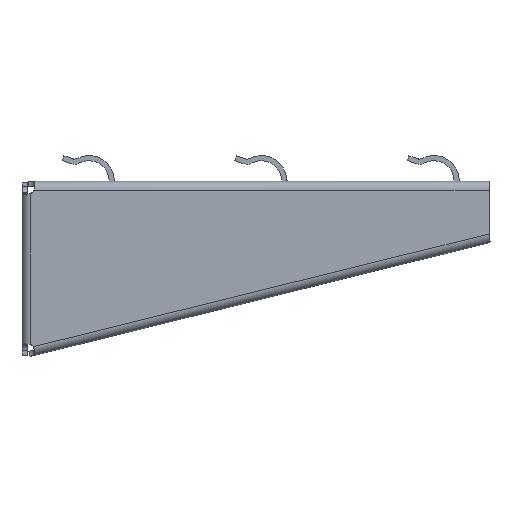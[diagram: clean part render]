
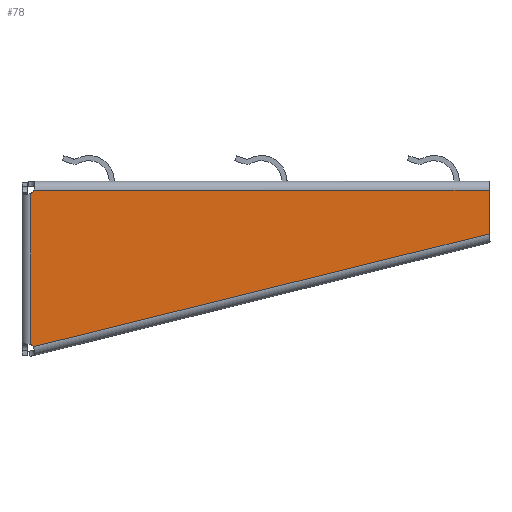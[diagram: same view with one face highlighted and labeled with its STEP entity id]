
A CAD part, left-side view. The second image highlights one B-rep face of the part: STEP entity #78.
In plain terms, the highlighted planar face has unit normal (-1, 0, 0).
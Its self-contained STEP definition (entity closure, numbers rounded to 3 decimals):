
#78=ADVANCED_FACE('',(#181),#1596,.T.);
#181=FACE_OUTER_BOUND('',#289,.T.);
#289=EDGE_LOOP('',(#597,#598,#599,#600,#601,#602,#603,#604,#605,#606));
#597=ORIENTED_EDGE('',*,*,#994,.T.);
#598=ORIENTED_EDGE('',*,*,#913,.F.);
#599=ORIENTED_EDGE('',*,*,#996,.T.);
#600=ORIENTED_EDGE('',*,*,#916,.F.);
#601=ORIENTED_EDGE('',*,*,#995,.F.);
#602=ORIENTED_EDGE('',*,*,#1001,.F.);
#603=ORIENTED_EDGE('',*,*,#1000,.F.);
#604=ORIENTED_EDGE('',*,*,#908,.F.);
#605=ORIENTED_EDGE('',*,*,#911,.F.);
#606=ORIENTED_EDGE('',*,*,#919,.F.);
#908=EDGE_CURVE('',#1421,#1419,#1153,.T.);
#911=EDGE_CURVE('',#1423,#1421,#1156,.T.);
#913=EDGE_CURVE('',#1425,#1413,#1158,.T.);
#916=EDGE_CURVE('',#1427,#1428,#1311,.T.);
#919=EDGE_CURVE('',#1411,#1423,#1161,.T.);
#994=EDGE_CURVE('',#1411,#1413,#1218,.T.);
#995=EDGE_CURVE('',#1415,#1427,#1331,.T.);
#996=EDGE_CURVE('',#1425,#1428,#1219,.T.);
#1000=EDGE_CURVE('',#1419,#1417,#1223,.T.);
#1001=EDGE_CURVE('',#1417,#1415,#1224,.T.);
#1153=(
BOUNDED_CURVE()
B_SPLINE_CURVE(2,(#2570,#2571,#2572),.UNSPECIFIED.,.F.,.F.)
B_SPLINE_CURVE_WITH_KNOTS((3,3),(562.4,563.029),
 .UNSPECIFIED.)
CURVE()
GEOMETRIC_REPRESENTATION_ITEM()
RATIONAL_B_SPLINE_CURVE((1.,0.988,1.))
REPRESENTATION_ITEM('')
);
#1156=(
BOUNDED_CURVE()
B_SPLINE_CURVE(2,(#2578,#2579,#2580),.UNSPECIFIED.,.F.,.F.)
B_SPLINE_CURVE_WITH_KNOTS((3,3),(562.397,562.4),
 .UNSPECIFIED.)
CURVE()
GEOMETRIC_REPRESENTATION_ITEM()
RATIONAL_B_SPLINE_CURVE((1.,1.,1.))
REPRESENTATION_ITEM('')
);
#1158=(
BOUNDED_CURVE()
B_SPLINE_CURVE(2,(#2584,#2585,#2586,#2587,#2588,#2589,#2590),
 .UNSPECIFIED.,.F.,.F.)
B_SPLINE_CURVE_WITH_KNOTS((3,2,2,3),(456.321,456.79,456.938,
457.396),.UNSPECIFIED.)
CURVE()
GEOMETRIC_REPRESENTATION_ITEM()
RATIONAL_B_SPLINE_CURVE((1.,0.994,1.,0.999,1.,0.994,
1.))
REPRESENTATION_ITEM('')
);
#1161=(
BOUNDED_CURVE()
B_SPLINE_CURVE(2,(#2606,#2607,#2608),.UNSPECIFIED.,.F.,.F.)
B_SPLINE_CURVE_WITH_KNOTS((3,3),(561.933,562.397),
 .UNSPECIFIED.)
CURVE()
GEOMETRIC_REPRESENTATION_ITEM()
RATIONAL_B_SPLINE_CURVE((1.,0.994,1.))
REPRESENTATION_ITEM('')
);
#1218=(
BOUNDED_CURVE()
B_SPLINE_CURVE(1,(#2877,#2878),.UNSPECIFIED.,.F.,.F.)
B_SPLINE_CURVE_WITH_KNOTS((2,2),(0.,43.718),.UNSPECIFIED.)
CURVE()
GEOMETRIC_REPRESENTATION_ITEM()
RATIONAL_B_SPLINE_CURVE((1.,1.))
REPRESENTATION_ITEM('')
);
#1219=(
BOUNDED_CURVE()
B_SPLINE_CURVE(1,(#2881,#2882),.UNSPECIFIED.,.F.,.F.)
B_SPLINE_CURVE_WITH_KNOTS((2,2),(0.,136.062),.UNSPECIFIED.)
CURVE()
GEOMETRIC_REPRESENTATION_ITEM()
RATIONAL_B_SPLINE_CURVE((1.,1.))
REPRESENTATION_ITEM('')
);
#1223=(
BOUNDED_CURVE()
B_SPLINE_CURVE(2,(#2896,#2897,#2898),.UNSPECIFIED.,.F.,.F.)
B_SPLINE_CURVE_WITH_KNOTS((3,3),(563.029,563.036),
 .UNSPECIFIED.)
CURVE()
GEOMETRIC_REPRESENTATION_ITEM()
RATIONAL_B_SPLINE_CURVE((1.,1.,1.))
REPRESENTATION_ITEM('')
);
#1224=(
BOUNDED_CURVE()
B_SPLINE_CURVE(2,(#2899,#2900,#2901),.UNSPECIFIED.,.F.,.F.)
B_SPLINE_CURVE_WITH_KNOTS((3,3),(563.036,563.493),
 .UNSPECIFIED.)
CURVE()
GEOMETRIC_REPRESENTATION_ITEM()
RATIONAL_B_SPLINE_CURVE((1.,0.994,1.))
REPRESENTATION_ITEM('')
);
#1311=B_SPLINE_CURVE_WITH_KNOTS('',1,(#2600,#2601),.UNSPECIFIED.,.F.,.F.,
(2,2),(747.6,760.32),.UNSPECIFIED.);
#1331=B_SPLINE_CURVE_WITH_KNOTS('',1,(#2879,#2880),.UNSPECIFIED.,.F.,.F.,
(2,2),(0.411,78.945),.UNSPECIFIED.);
#1411=VERTEX_POINT('',#2334);
#1413=VERTEX_POINT('',#2336);
#1415=VERTEX_POINT('',#2338);
#1417=VERTEX_POINT('',#2340);
#1419=VERTEX_POINT('',#2342);
#1421=VERTEX_POINT('',#2344);
#1423=VERTEX_POINT('',#2346);
#1425=VERTEX_POINT('',#2348);
#1427=VERTEX_POINT('',#2350);
#1428=VERTEX_POINT('',#2351);
#1596=PLANE('',#1761);
#1761=AXIS2_PLACEMENT_3D('',#2295,#1832,$);
#1832=DIRECTION('',(-1.,0.,0.));
#2295=CARTESIAN_POINT('',(-13.138,-136.581,25.226));
#2334=CARTESIAN_POINT('',(-13.138,-2.109,-2.055));
#2336=CARTESIAN_POINT('',(-13.138,-2.109,-45.772));
#2338=CARTESIAN_POINT('',(-13.138,-3.163,-1.));
#2340=CARTESIAN_POINT('',(-13.138,-2.943,-1.389));
#2342=CARTESIAN_POINT('',(-13.138,-2.939,-1.395));
#2344=CARTESIAN_POINT('',(-13.138,-2.498,-1.834));
#2346=CARTESIAN_POINT('',(-13.138,-2.496,-1.836));
#2348=CARTESIAN_POINT('',(-13.138,-2.921,-46.408));
#2350=CARTESIAN_POINT('',(-13.138,-134.998,-1.));
#2351=CARTESIAN_POINT('',(-13.138,-134.998,-13.72));
#2570=CARTESIAN_POINT('',(-13.138,-2.498,-1.834));
#2571=CARTESIAN_POINT('',(-13.138,-2.753,-1.649));
#2572=CARTESIAN_POINT('',(-13.138,-2.939,-1.395));
#2578=CARTESIAN_POINT('',(-13.138,-2.496,-1.836));
#2579=CARTESIAN_POINT('',(-13.138,-2.497,-1.835));
#2580=CARTESIAN_POINT('',(-13.138,-2.498,-1.834));
#2584=CARTESIAN_POINT('',(-13.138,-2.921,-46.408));
#2585=CARTESIAN_POINT('',(-13.138,-2.785,-46.228));
#2586=CARTESIAN_POINT('',(-13.138,-2.613,-46.083));
#2587=CARTESIAN_POINT('',(-13.138,-2.557,-46.036));
#2588=CARTESIAN_POINT('',(-13.138,-2.498,-45.993));
#2589=CARTESIAN_POINT('',(-13.138,-2.316,-45.861));
#2590=CARTESIAN_POINT('',(-13.138,-2.109,-45.772));
#2600=CARTESIAN_POINT('',(-13.138,-134.998,-1.));
#2601=CARTESIAN_POINT('',(-13.138,-134.998,-13.72));
#2606=CARTESIAN_POINT('',(-13.138,-2.109,-2.055));
#2607=CARTESIAN_POINT('',(-13.138,-2.314,-1.967));
#2608=CARTESIAN_POINT('',(-13.138,-2.496,-1.836));
#2877=CARTESIAN_POINT('',(-13.138,-2.109,-2.055));
#2878=CARTESIAN_POINT('',(-13.138,-2.109,-45.772));
#2879=CARTESIAN_POINT('',(-13.138,-3.163,-1.));
#2880=CARTESIAN_POINT('',(-13.138,-134.998,-1.));
#2881=CARTESIAN_POINT('',(-13.138,-2.921,-46.408));
#2882=CARTESIAN_POINT('',(-13.138,-134.998,-13.72));
#2896=CARTESIAN_POINT('',(-13.138,-2.939,-1.395));
#2897=CARTESIAN_POINT('',(-13.138,-2.941,-1.392));
#2898=CARTESIAN_POINT('',(-13.138,-2.943,-1.389));
#2899=CARTESIAN_POINT('',(-13.138,-2.943,-1.389));
#2900=CARTESIAN_POINT('',(-13.138,-3.075,-1.207));
#2901=CARTESIAN_POINT('',(-13.138,-3.163,-1.));
